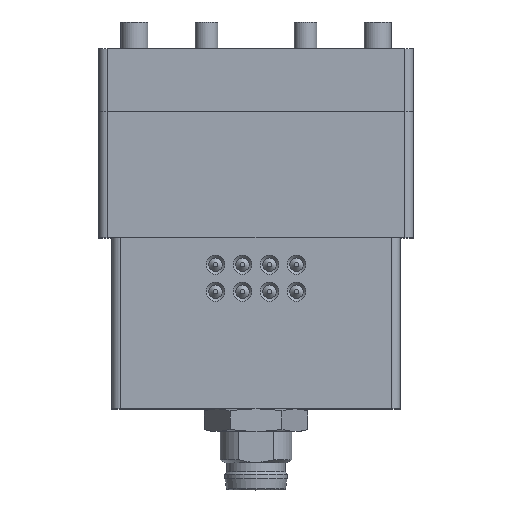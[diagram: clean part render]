
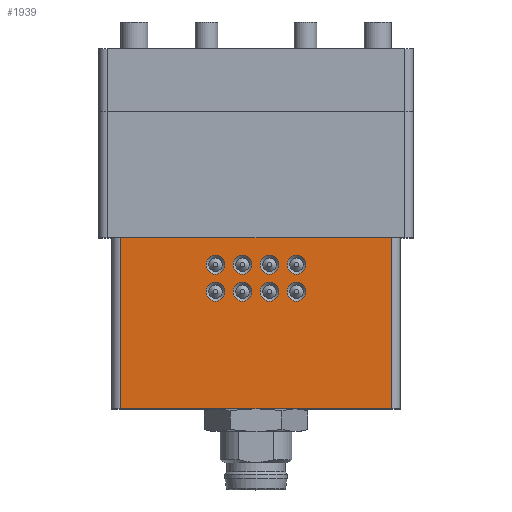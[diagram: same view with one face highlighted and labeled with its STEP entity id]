
A CAD part, top view. The second image highlights one B-rep face of the part: STEP entity #1939.
In plain terms, the highlighted planar face has unit normal (0, 0, 1).
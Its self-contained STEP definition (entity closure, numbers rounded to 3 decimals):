
#1939=ADVANCED_FACE(' H______',(#5032,#5033,#5034,#5035,#5036,#5037,#5038,#5039,#5040),#5041,.T.);
#2677=EDGE_CURVE('',#6147,#6150,#6151,.T.);
#3633=EDGE_CURVE('',#7428,#7425,#7429,.T.);
#3641=EDGE_CURVE('',#7439,#7439,#7440,.T.);
#3645=EDGE_CURVE('',#7445,#7445,#7446,.T.);
#3649=EDGE_CURVE('',#7451,#7451,#7452,.T.);
#3653=EDGE_CURVE('',#7457,#7457,#7458,.T.);
#3657=EDGE_CURVE('',#7463,#7463,#7464,.T.);
#3661=EDGE_CURVE('',#7469,#7469,#7470,.T.);
#3665=EDGE_CURVE('',#7475,#7475,#7476,.T.);
#3669=EDGE_CURVE('',#7481,#7481,#7482,.T.);
#3853=EDGE_CURVE('',#7425,#6150,#7715,.T.);
#3855=EDGE_CURVE('',#7428,#6147,#7717,.T.);
#5032=FACE_BOUND('',#9022,.T.);
#5033=FACE_BOUND('',#9023,.T.);
#5034=FACE_BOUND('',#9024,.T.);
#5035=FACE_BOUND('',#9025,.T.);
#5036=FACE_BOUND('',#9026,.T.);
#5037=FACE_BOUND('',#9027,.T.);
#5038=FACE_BOUND('',#9028,.T.);
#5039=FACE_BOUND('',#9029,.T.);
#5040=FACE_OUTER_BOUND('',#9030,.T.);
#5041=PLANE('',#9031);
#6147=VERTEX_POINT('',#10647);
#6150=VERTEX_POINT('',#10651);
#6151=LINE('',#10652,#10653);
#7425=VERTEX_POINT('',#12815);
#7428=VERTEX_POINT('',#12819);
#7429=LINE('',#12820,#12821);
#7439=VERTEX_POINT('',#12836);
#7440=CIRCLE('',#12837,1.05);
#7445=VERTEX_POINT('',#12844);
#7446=CIRCLE('',#12845,1.05);
#7451=VERTEX_POINT('',#12852);
#7452=CIRCLE('',#12853,1.05);
#7457=VERTEX_POINT('',#12860);
#7458=CIRCLE('',#12861,1.05);
#7463=VERTEX_POINT('',#12868);
#7464=CIRCLE('',#12869,1.05);
#7469=VERTEX_POINT('',#12876);
#7470=CIRCLE('',#12877,1.05);
#7475=VERTEX_POINT('',#12884);
#7476=CIRCLE('',#12885,1.05);
#7481=VERTEX_POINT('',#12892);
#7482=CIRCLE('',#12893,1.05);
#7715=LINE('',#13288,#13289);
#7717=LINE('',#13292,#13293);
#9022=EDGE_LOOP('',(#16434));
#9023=EDGE_LOOP('',(#16435));
#9024=EDGE_LOOP('',(#16436));
#9025=EDGE_LOOP('',(#16437));
#9026=EDGE_LOOP('',(#16438));
#9027=EDGE_LOOP('',(#16439));
#9028=EDGE_LOOP('',(#16440));
#9029=EDGE_LOOP('',(#16441));
#9030=EDGE_LOOP('',(#16442,#16443,#16444,#16445));
#9031=AXIS2_PLACEMENT_3D('',#16446,#16447,#16448);
#10647=CARTESIAN_POINT('',(15.0,-40.,21.0));
#10651=CARTESIAN_POINT('',(-15.0,-40.,21.0));
#10652=CARTESIAN_POINT('',(15.0,-40.,21.0));
#10653=VECTOR('',#18011,1.0);
#12815=CARTESIAN_POINT('',(-15.0,-21.,21.0));
#12819=CARTESIAN_POINT('',(15.0,-21.,21.0));
#12820=CARTESIAN_POINT('',(15.0,-21.,21.0));
#12821=VECTOR('',#18720,1.0);
#12836=CARTESIAN_POINT('',(5.55,-24.,21.0));
#12837=AXIS2_PLACEMENT_3D('',#18728,#18729,#18730);
#12844=CARTESIAN_POINT('',(5.55,-27.,21.0));
#12845=AXIS2_PLACEMENT_3D('',#18734,#18735,#18736);
#12852=CARTESIAN_POINT('',(2.55,-27.,21.0));
#12853=AXIS2_PLACEMENT_3D('',#18740,#18741,#18742);
#12860=CARTESIAN_POINT('',(2.55,-24.,21.0));
#12861=AXIS2_PLACEMENT_3D('',#18746,#18747,#18748);
#12868=CARTESIAN_POINT('',(-0.45,-24.,21.0));
#12869=AXIS2_PLACEMENT_3D('',#18752,#18753,#18754);
#12876=CARTESIAN_POINT('',(-0.45,-27.,21.0));
#12877=AXIS2_PLACEMENT_3D('',#18758,#18759,#18760);
#12884=CARTESIAN_POINT('',(-3.45,-24.,21.0));
#12885=AXIS2_PLACEMENT_3D('',#18764,#18765,#18766);
#12892=CARTESIAN_POINT('',(-3.45,-27.,21.0));
#12893=AXIS2_PLACEMENT_3D('',#18770,#18771,#18772);
#13288=CARTESIAN_POINT('',(-15.0,-21.,21.0));
#13289=VECTOR('',#18907,1.0);
#13292=CARTESIAN_POINT('',(15.0,-21.,21.0));
#13293=VECTOR('',#18908,1.0);
#16434=ORIENTED_EDGE('',*,*,#3669,.T.);
#16435=ORIENTED_EDGE('',*,*,#3665,.T.);
#16436=ORIENTED_EDGE('',*,*,#3661,.T.);
#16437=ORIENTED_EDGE('',*,*,#3657,.T.);
#16438=ORIENTED_EDGE('',*,*,#3653,.T.);
#16439=ORIENTED_EDGE('',*,*,#3649,.T.);
#16440=ORIENTED_EDGE('',*,*,#3645,.T.);
#16441=ORIENTED_EDGE('',*,*,#3641,.T.);
#16442=ORIENTED_EDGE('',*,*,#3633,.T.);
#16443=ORIENTED_EDGE('',*,*,#3853,.T.);
#16444=ORIENTED_EDGE('',*,*,#2677,.F.);
#16445=ORIENTED_EDGE('',*,*,#3855,.F.);
#16446=CARTESIAN_POINT('',(-15.0,-40.,21.0));
#16447=DIRECTION('',(0.0,0.0,1.0));
#16448=DIRECTION('',(1.0,0.0,0.0));
#18011=DIRECTION('',(-1.0,0.0,0.0));
#18720=DIRECTION('',(-1.0,0.0,0.0));
#18728=CARTESIAN_POINT('',(4.5,-24.,21.0));
#18729=DIRECTION('',(0.0,0.0,-1.0));
#18730=DIRECTION('',(1.0,0.0,0.0));
#18734=CARTESIAN_POINT('',(4.5,-27.,21.0));
#18735=DIRECTION('',(0.0,0.0,-1.0));
#18736=DIRECTION('',(1.0,0.0,0.0));
#18740=CARTESIAN_POINT('',(1.5,-27.,21.0));
#18741=DIRECTION('',(0.0,0.0,-1.0));
#18742=DIRECTION('',(1.0,0.0,0.0));
#18746=CARTESIAN_POINT('',(1.5,-24.,21.0));
#18747=DIRECTION('',(0.0,0.0,-1.0));
#18748=DIRECTION('',(1.0,0.0,0.0));
#18752=CARTESIAN_POINT('',(-1.5,-24.,21.0));
#18753=DIRECTION('',(0.0,0.0,-1.0));
#18754=DIRECTION('',(1.0,0.0,0.0));
#18758=CARTESIAN_POINT('',(-1.5,-27.,21.0));
#18759=DIRECTION('',(0.0,0.0,-1.0));
#18760=DIRECTION('',(1.0,0.0,0.0));
#18764=CARTESIAN_POINT('',(-4.5,-24.,21.0));
#18765=DIRECTION('',(0.0,0.0,-1.0));
#18766=DIRECTION('',(1.0,0.0,0.0));
#18770=CARTESIAN_POINT('',(-4.5,-27.,21.0));
#18771=DIRECTION('',(0.0,0.0,-1.0));
#18772=DIRECTION('',(1.0,0.0,0.0));
#18907=DIRECTION('',(0.0,-1.0,0.0));
#18908=DIRECTION('',(0.0,-1.0,0.0));
